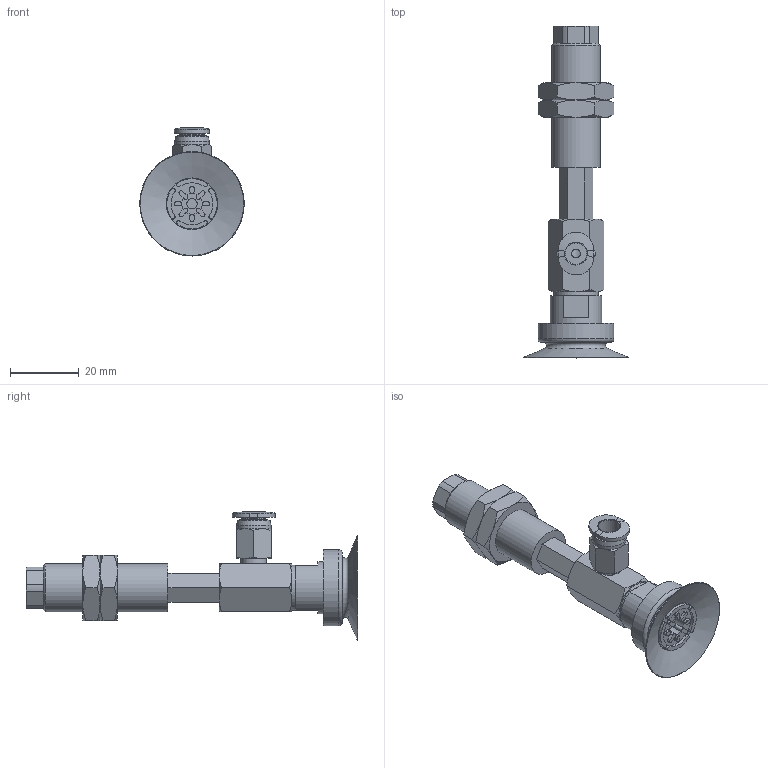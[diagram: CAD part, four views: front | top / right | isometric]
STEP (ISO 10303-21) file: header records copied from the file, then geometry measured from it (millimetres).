
FILE_DESCRIPTION(('STEP AP203'),'1');
FILE_NAME('-O.stp','2025-03-13T08:11:33',(' '),(' '),'Spatial InterOp 3D',' ',' ');
FILE_SCHEMA(('CONFIG_CONTROL_DESIGN'));
Length unit declared in the file: millimetre
Products named in the file (7): BNABPAYH-30-15-※-O; CONNECTOR-30-15-PA; Nut-25-S; NAPAYH-30-15--F; NAPAYH-30-15--M; BPAG-30-※; PC-C_06-M5
Assembly tree (7 placements, depth 2):
  BNABPAYH-30-15-※-O
    CONNECTOR-30-15-PA
    Nut-25-S  x2
    NAPAYH-30-15--F
    NAPAYH-30-15--M
    BPAG-30-※
    PC-C_06-M5
Bounding box: 30.3 x 96.2 x 37.13 mm (x, y, z)
Volume: 15890.1 mm3; surface area: 12915.1 mm2
Topology: 6 solids, 9 shells, 259 faces, 586 edges, 367 vertices
Faces by surface type: plane 116, cone 67, cylinder 65, torus 4, bspline 4, revolution 3
Full cylindrical faces by diameter (mm): 3 x2, 4 x2, 4.134 x2, 4.6 x1, 4.917 x1, 5 x2, 6 x1, 7 x1, 7.4 x1, 8.2 x1, 10 x1, 12.917 x2, 13 x1, 14 x1, 15 x1, 22 x1
Entity records: 7280 total; most frequent: CARTESIAN_POINT 1814, DIRECTION 1085, ORIENTED_EDGE 982, EDGE_CURVE 493, AXIS2_PLACEMENT_3D 434, VERTEX_POINT 335, EDGE_LOOP 312, LINE 214
